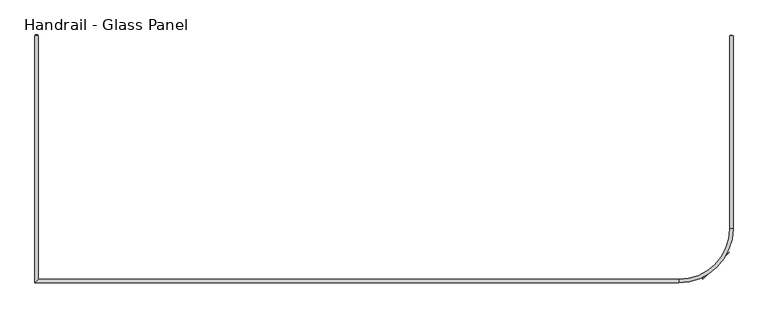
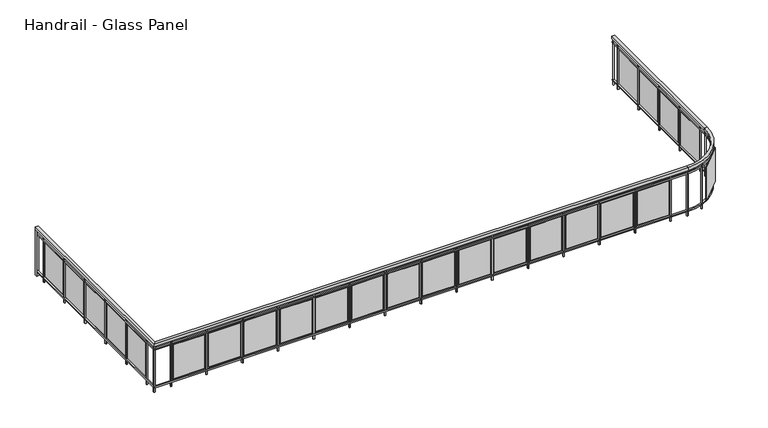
"""IFC4 building model written with IfcOpenShell, lengths in millimetres: railing geometry, Handrail - Glass Panel."""

from ifc_helpers import new_model, si_unit, point, frame, frame_2d, origin, place, context, project, spatial, polyline, circle_curve, trimmed, segment, composite_curve, outline, extrude, source, transform, mapped, element, save
from ifc_brep_helpers import plane_surface, cylinder_surface, revolved_surface, advanced_brep


def handrail_glass_panel_d91cfecd(model_context):
    return source(origin(), model_context, "Body", "SolidModel", [
        advanced_brep(
        [(19806.6134101, -11472.6148653, 9014.4), (19857.4134101, -11472.6148653, 9014.4), (19857.4134101, -11472.6148653, 8963.6), (19806.6134101, -11472.6148653, 8963.6), (19806.6134101, -15123.4148653, 9014.4), (19857.4134101, -15072.6148653, 9014.4), (19857.4134101, -15072.6148653, 8963.6), (19806.6134101, -15123.4148653, 8963.6), (29312.4134101, -15123.4148653, 9014.4), (29312.4134101, -15072.6148653, 9014.4), (29312.4134101, -15072.6148653, 8963.6), (29312.4134101, -15123.4148653, 8963.6), (30062.4134101, -14322.6148653, 9014.4), (30113.2134101, -14322.6148653, 9014.4), (30062.4134101, -14322.6148653, 8963.6), (30113.2134101, -14322.6148653, 8963.6), (30113.2134101, -11472.6148653, 9014.4), (30113.2134101, -11472.6148653, 8963.6), (30062.4134101, -11472.6148653, 8963.6), (30062.4134101, -11472.6148653, 9014.4)],
        [
            (0, 1),
            (1, 2),
            (2, 3),
            (3, 0),
            (0, 4),
            (4, 5),
            (5, 1),
            (5, 6),
            (6, 2),
            (6, 7),
            (7, 3),
            (7, 4),
            (4, 8),
            (8, 9),
            (9, 5),
            (9, 10),
            (10, 6),
            (10, 11),
            (11, 7),
            (11, 8),
            (12, 9, circle_curve(frame((29312.4134101, -14322.6148653, 9014.4), z_axis=(0.0, 0.0, -1.0), x_axis=(0.0, -1.0, 0.0)), 750.0)),
            (8, 13, circle_curve(frame((29312.4134101, -14322.6148653, 9014.4), z_axis=(0.0, 0.0, 1.0), x_axis=(0.0, -1.0, 0.0)), 800.8)),
            (13, 12),
            (14, 10, circle_curve(frame((29312.4134101, -14322.6148653, 8963.6), z_axis=(0.0, 0.0, -1.0), x_axis=(0.0, -1.0, 0.0)), 750.0)),
            (12, 14),
            (15, 11, circle_curve(frame((29312.4134101, -14322.6148653, 8963.6), z_axis=(0.0, 0.0, -1.0), x_axis=(0.0, -1.0, 0.0)), 800.8)),
            (14, 15),
            (15, 13),
            (16, 17),
            (17, 18),
            (18, 19),
            (19, 16),
            (13, 16),
            (19, 12),
            (18, 14),
            (17, 15),
        ],
        [
            plane_surface(frame((19832.0134101, -11472.6148653, 9014.4), z_axis=(0.0, 1.0, 0.0), x_axis=(0.0, 0.0, -1.0))),
            plane_surface(frame((19806.6134101, -11472.6148653, 9014.4), z_axis=(0.0, 0.0, 1.0), x_axis=(0.0, -1.0, 0.0))),
            plane_surface(frame((19857.4134101, -11472.6148653, 9014.4), z_axis=(1.0, 0.0, 0.0), x_axis=(0.0, -1.0, 0.0))),
            plane_surface(frame((19857.4134101, -11472.6148653, 8963.6), z_axis=(0.0, 0.0, -1.0), x_axis=(0.0, -1.0, 0.0))),
            plane_surface(frame((19806.6134101, -11472.6148653, 8963.6), z_axis=(-1.0, 0.0, 0.0), x_axis=(0.0, -1.0, 0.0))),
            plane_surface(frame((19806.6134101, -15123.4148653, 9014.4), z_axis=(0.0, 0.0, 1.0), x_axis=(1.0, 0.0, 0.0))),
            plane_surface(frame((19857.4134101, -15072.6148653, 9014.4), z_axis=(0.0, 1.0, 0.0), x_axis=(1.0, 0.0, 0.0))),
            plane_surface(frame((19857.4134101, -15072.6148653, 8963.6), z_axis=(0.0, 0.0, -1.0), x_axis=(1.0, 0.0, 0.0))),
            plane_surface(frame((19806.6134101, -15123.4148653, 8963.6), z_axis=(0.0, -1.0, 0.0), x_axis=(1.0, 0.0, 0.0))),
            plane_surface(frame((29312.4134101, -14322.6148653, 9014.4), z_axis=(0.0, 0.0, 1.0), x_axis=(0.0, -1.0, 0.0))),
            revolved_surface(polyline([(29312.4134101, -15072.6148653, 9014.4), (29312.4134101, -15072.6148653, 8963.6)]), (29312.4134101, -14322.6148653, 9014.4), (0.0, 0.0, 1.0)),
            plane_surface(frame((29312.4134101, -14322.6148653, 8963.6), z_axis=(0.0, 0.0, -1.0), x_axis=(0.0, -1.0, 0.0))),
            cylinder_surface(frame((29312.4134101, -14322.6148653, 9014.4), z_axis=(0.0, 0.0, 1.0), x_axis=(0.0, -1.0, 0.0)), 800.8),
            plane_surface(frame((30087.8134101, -11472.6148653, 9014.4), z_axis=(0.0, 1.0, 0.0), x_axis=(0.0, 0.0, 1.0))),
            plane_surface(frame((30113.2134101, -14322.6148653, 9014.4), z_axis=(0.0, 0.0, 1.0), x_axis=(0.0, 1.0, 0.0))),
            plane_surface(frame((30062.4134101, -14322.6148653, 9014.4), z_axis=(-1.0, 0.0, 0.0), x_axis=(0.0, 1.0, 0.0))),
            plane_surface(frame((30062.4134101, -14322.6148653, 8963.6), z_axis=(0.0, 0.0, -1.0), x_axis=(0.0, 1.0, 0.0))),
            plane_surface(frame((30113.2134101, -14322.6148653, 8963.6), z_axis=(1.0, 0.0, 0.0), x_axis=(0.0, 1.0, 0.0))),
        ],
        [
            (0, [[1, 2, 3, 4]]),
            (1, [[-1, 5, 6, 7]]),
            (2, [[-2, -7, 8, 9]]),
            (3, [[-3, -9, 10, 11]]),
            (4, [[-4, -11, 12, -5]]),
            (5, [[-6, 13, 14, 15]]),
            (6, [[-8, -15, 16, 17]]),
            (7, [[-10, -17, 18, 19]]),
            (8, [[-12, -19, 20, -13]]),
            (9, [[21, -14, 22, 23]]),
            (10, [[24, -16, -21, 25]]),
            (11, [[26, -18, -24, 27]]),
            (12, [[-22, -20, -26, 28]]),
            (13, [[29, 30, 31, 32]]),
            (14, [[-23, 33, -32, 34]]),
            (15, [[-25, -34, -31, 35]]),
            (16, [[-27, -35, -30, 36]]),
            (17, [[-28, -36, -29, -33]]),
        ],
    ),
        advanced_brep(
        [(19819.3134101, -11472.6148653, 8912.8), (19844.7134101, -11472.6148653, 8912.8), (19844.7134101, -11472.6148653, 8887.4), (19819.3134101, -11472.6148653, 8887.4), (19819.3134101, -15110.7148653, 8912.8), (19844.7134101, -15085.3148653, 8912.8), (19844.7134101, -15085.3148653, 8887.4), (19819.3134101, -15110.7148653, 8887.4), (29312.4134101, -15110.7148653, 8912.8), (29312.4134101, -15085.3148653, 8912.8), (29312.4134101, -15085.3148653, 8887.4), (29312.4134101, -15110.7148653, 8887.4), (30075.1134101, -14322.6148653, 8912.8), (30100.5134101, -14322.6148653, 8912.8), (30075.1134101, -14322.6148653, 8887.4), (30100.5134101, -14322.6148653, 8887.4), (30100.5134101, -11472.6148653, 8912.8), (30100.5134101, -11472.6148653, 8887.4), (30075.1134101, -11472.6148653, 8887.4), (30075.1134101, -11472.6148653, 8912.8)],
        [
            (0, 1),
            (1, 2),
            (2, 3),
            (3, 0),
            (0, 4),
            (4, 5),
            (5, 1),
            (5, 6),
            (6, 2),
            (6, 7),
            (7, 3),
            (7, 4),
            (4, 8),
            (8, 9),
            (9, 5),
            (9, 10),
            (10, 6),
            (10, 11),
            (11, 7),
            (11, 8),
            (12, 9, circle_curve(frame((29312.4134101, -14322.6148653, 8912.8), z_axis=(0.0, 0.0, -1.0), x_axis=(0.0, -1.0, 0.0)), 762.7)),
            (8, 13, circle_curve(frame((29312.4134101, -14322.6148653, 8912.8), z_axis=(0.0, 0.0, 1.0), x_axis=(0.0, -1.0, 0.0)), 788.1)),
            (13, 12),
            (14, 10, circle_curve(frame((29312.4134101, -14322.6148653, 8887.4), z_axis=(0.0, 0.0, -1.0), x_axis=(0.0, -1.0, 0.0)), 762.7)),
            (12, 14),
            (15, 11, circle_curve(frame((29312.4134101, -14322.6148653, 8887.4), z_axis=(0.0, 0.0, -1.0), x_axis=(0.0, -1.0, 0.0)), 788.1)),
            (14, 15),
            (15, 13),
            (16, 17),
            (17, 18),
            (18, 19),
            (19, 16),
            (13, 16),
            (19, 12),
            (18, 14),
            (17, 15),
        ],
        [
            plane_surface(frame((19832.0134101, -11472.6148653, 8912.8), z_axis=(0.0, 1.0, 0.0), x_axis=(0.0, 0.0, -1.0))),
            plane_surface(frame((19819.3134101, -11472.6148653, 8912.8), z_axis=(0.0, 0.0, 1.0), x_axis=(0.0, -1.0, 0.0))),
            plane_surface(frame((19844.7134101, -11472.6148653, 8912.8), z_axis=(1.0, 0.0, 0.0), x_axis=(0.0, -1.0, 0.0))),
            plane_surface(frame((19844.7134101, -11472.6148653, 8887.4), z_axis=(0.0, 0.0, -1.0), x_axis=(0.0, -1.0, 0.0))),
            plane_surface(frame((19819.3134101, -11472.6148653, 8887.4), z_axis=(-1.0, 0.0, 0.0), x_axis=(0.0, -1.0, 0.0))),
            plane_surface(frame((19819.3134101, -15110.7148653, 8912.8), z_axis=(0.0, 0.0, 1.0), x_axis=(1.0, 0.0, 0.0))),
            plane_surface(frame((19844.7134101, -15085.3148653, 8912.8), z_axis=(0.0, 1.0, 0.0), x_axis=(1.0, 0.0, 0.0))),
            plane_surface(frame((19844.7134101, -15085.3148653, 8887.4), z_axis=(0.0, 0.0, -1.0), x_axis=(1.0, 0.0, 0.0))),
            plane_surface(frame((19819.3134101, -15110.7148653, 8887.4), z_axis=(0.0, -1.0, 0.0), x_axis=(1.0, 0.0, 0.0))),
            plane_surface(frame((29312.4134101, -14322.6148653, 8912.8), z_axis=(0.0, 0.0, 1.0), x_axis=(0.0, -1.0, 0.0))),
            revolved_surface(polyline([(29312.4134101, -15085.3148653, 8912.8), (29312.4134101, -15085.3148653, 8887.4)]), (29312.4134101, -14322.6148653, 8912.8), (0.0, 0.0, 1.0)),
            plane_surface(frame((29312.4134101, -14322.6148653, 8887.4), z_axis=(0.0, 0.0, -1.0), x_axis=(0.0, -1.0, 0.0))),
            cylinder_surface(frame((29312.4134101, -14322.6148653, 8912.8), z_axis=(0.0, 0.0, 1.0), x_axis=(0.0, -1.0, 0.0)), 788.1),
            plane_surface(frame((30087.8134101, -11472.6148653, 8912.8), z_axis=(0.0, 1.0, 0.0), x_axis=(0.0, 0.0, 1.0))),
            plane_surface(frame((30100.5134101, -14322.6148653, 8912.8), z_axis=(0.0, 0.0, 1.0), x_axis=(0.0, 1.0, 0.0))),
            plane_surface(frame((30075.1134101, -14322.6148653, 8912.8), z_axis=(-1.0, 0.0, 0.0), x_axis=(0.0, 1.0, 0.0))),
            plane_surface(frame((30075.1134101, -14322.6148653, 8887.4), z_axis=(0.0, 0.0, -1.0), x_axis=(0.0, 1.0, 0.0))),
            plane_surface(frame((30100.5134101, -14322.6148653, 8887.4), z_axis=(1.0, 0.0, 0.0), x_axis=(0.0, 1.0, 0.0))),
        ],
        [
            (0, [[1, 2, 3, 4]]),
            (1, [[-1, 5, 6, 7]]),
            (2, [[-2, -7, 8, 9]]),
            (3, [[-3, -9, 10, 11]]),
            (4, [[-4, -11, 12, -5]]),
            (5, [[-6, 13, 14, 15]]),
            (6, [[-8, -15, 16, 17]]),
            (7, [[-10, -17, 18, 19]]),
            (8, [[-12, -19, 20, -13]]),
            (9, [[21, -14, 22, 23]]),
            (10, [[24, -16, -21, 25]]),
            (11, [[26, -18, -24, 27]]),
            (12, [[-22, -20, -26, 28]]),
            (13, [[29, 30, 31, 32]]),
            (14, [[-23, 33, -32, 34]]),
            (15, [[-25, -34, -31, 35]]),
            (16, [[-27, -35, -30, 36]]),
            (17, [[-28, -36, -29, -33]]),
        ],
    ),
        advanced_brep(
        [(19819.3134101, -11472.6148653, 8201.6), (19844.7134101, -11472.6148653, 8201.6), (19844.7134101, -11472.6148653, 8176.2), (19819.3134101, -11472.6148653, 8176.2), (19819.3134101, -15110.7148653, 8201.6), (19844.7134101, -15085.3148653, 8201.6), (19844.7134101, -15085.3148653, 8176.2), (19819.3134101, -15110.7148653, 8176.2), (29312.4134101, -15110.7148653, 8201.6), (29312.4134101, -15085.3148653, 8201.6), (29312.4134101, -15085.3148653, 8176.2), (29312.4134101, -15110.7148653, 8176.2), (30075.1134101, -14322.6148653, 8201.6), (30100.5134101, -14322.6148653, 8201.6), (30075.1134101, -14322.6148653, 8176.2), (30100.5134101, -14322.6148653, 8176.2), (30100.5134101, -11472.6148653, 8201.6), (30100.5134101, -11472.6148653, 8176.2), (30075.1134101, -11472.6148653, 8176.2), (30075.1134101, -11472.6148653, 8201.6)],
        [
            (0, 1),
            (1, 2),
            (2, 3),
            (3, 0),
            (0, 4),
            (4, 5),
            (5, 1),
            (5, 6),
            (6, 2),
            (6, 7),
            (7, 3),
            (7, 4),
            (4, 8),
            (8, 9),
            (9, 5),
            (9, 10),
            (10, 6),
            (10, 11),
            (11, 7),
            (11, 8),
            (12, 9, circle_curve(frame((29312.4134101, -14322.6148653, 8201.6), z_axis=(0.0, 0.0, -1.0), x_axis=(0.0, -1.0, 0.0)), 762.7)),
            (8, 13, circle_curve(frame((29312.4134101, -14322.6148653, 8201.6), z_axis=(0.0, 0.0, 1.0), x_axis=(0.0, -1.0, 0.0)), 788.1)),
            (13, 12),
            (14, 10, circle_curve(frame((29312.4134101, -14322.6148653, 8176.2), z_axis=(0.0, 0.0, -1.0), x_axis=(0.0, -1.0, 0.0)), 762.7)),
            (12, 14),
            (15, 11, circle_curve(frame((29312.4134101, -14322.6148653, 8176.2), z_axis=(0.0, 0.0, -1.0), x_axis=(0.0, -1.0, 0.0)), 788.1)),
            (14, 15),
            (15, 13),
            (16, 17),
            (17, 18),
            (18, 19),
            (19, 16),
            (13, 16),
            (19, 12),
            (18, 14),
            (17, 15),
        ],
        [
            plane_surface(frame((19832.0134101, -11472.6148653, 8201.6), z_axis=(0.0, 1.0, 0.0), x_axis=(0.0, 0.0, -1.0))),
            plane_surface(frame((19819.3134101, -11472.6148653, 8201.6), z_axis=(0.0, 0.0, 1.0), x_axis=(0.0, -1.0, 0.0))),
            plane_surface(frame((19844.7134101, -11472.6148653, 8201.6), z_axis=(1.0, 0.0, 0.0), x_axis=(0.0, -1.0, 0.0))),
            plane_surface(frame((19844.7134101, -11472.6148653, 8176.2), z_axis=(0.0, 0.0, -1.0), x_axis=(0.0, -1.0, 0.0))),
            plane_surface(frame((19819.3134101, -11472.6148653, 8176.2), z_axis=(-1.0, 0.0, 0.0), x_axis=(0.0, -1.0, 0.0))),
            plane_surface(frame((19819.3134101, -15110.7148653, 8201.6), z_axis=(0.0, 0.0, 1.0), x_axis=(1.0, 0.0, 0.0))),
            plane_surface(frame((19844.7134101, -15085.3148653, 8201.6), z_axis=(0.0, 1.0, 0.0), x_axis=(1.0, 0.0, 0.0))),
            plane_surface(frame((19844.7134101, -15085.3148653, 8176.2), z_axis=(0.0, 0.0, -1.0), x_axis=(1.0, 0.0, 0.0))),
            plane_surface(frame((19819.3134101, -15110.7148653, 8176.2), z_axis=(0.0, -1.0, 0.0), x_axis=(1.0, 0.0, 0.0))),
            plane_surface(frame((29312.4134101, -14322.6148653, 8201.6), z_axis=(0.0, 0.0, 1.0), x_axis=(0.0, -1.0, 0.0))),
            revolved_surface(polyline([(29312.4134101, -15085.3148653, 8201.6), (29312.4134101, -15085.3148653, 8176.2)]), (29312.4134101, -14322.6148653, 8201.6), (0.0, 0.0, 1.0)),
            plane_surface(frame((29312.4134101, -14322.6148653, 8176.2), z_axis=(0.0, 0.0, -1.0), x_axis=(0.0, -1.0, 0.0))),
            cylinder_surface(frame((29312.4134101, -14322.6148653, 8201.6), z_axis=(0.0, 0.0, 1.0), x_axis=(0.0, -1.0, 0.0)), 788.1),
            plane_surface(frame((30087.8134101, -11472.6148653, 8201.6), z_axis=(0.0, 1.0, 0.0), x_axis=(0.0, 0.0, 1.0))),
            plane_surface(frame((30100.5134101, -14322.6148653, 8201.6), z_axis=(0.0, 0.0, 1.0), x_axis=(0.0, 1.0, 0.0))),
            plane_surface(frame((30075.1134101, -14322.6148653, 8201.6), z_axis=(-1.0, 0.0, 0.0), x_axis=(0.0, 1.0, 0.0))),
            plane_surface(frame((30075.1134101, -14322.6148653, 8176.2), z_axis=(0.0, 0.0, -1.0), x_axis=(0.0, 1.0, 0.0))),
            plane_surface(frame((30100.5134101, -14322.6148653, 8176.2), z_axis=(1.0, 0.0, 0.0), x_axis=(0.0, 1.0, 0.0))),
        ],
        [
            (0, [[1, 2, 3, 4]]),
            (1, [[-1, 5, 6, 7]]),
            (2, [[-2, -7, 8, 9]]),
            (3, [[-3, -9, 10, 11]]),
            (4, [[-4, -11, 12, -5]]),
            (5, [[-6, 13, 14, 15]]),
            (6, [[-8, -15, 16, 17]]),
            (7, [[-10, -17, 18, 19]]),
            (8, [[-12, -19, 20, -13]]),
            (9, [[21, -14, 22, 23]]),
            (10, [[24, -16, -21, 25]]),
            (11, [[26, -18, -24, 27]]),
            (12, [[-22, -20, -26, 28]]),
            (13, [[29, 30, 31, 32]]),
            (14, [[-23, 33, -32, 34]]),
            (15, [[-25, -34, -31, 35]]),
            (16, [[-27, -35, -30, 36]]),
            (17, [[-28, -36, -29, -33]]),
        ],
    ),
        extrude(outline(polyline([(30097.3384101, -11637.1398653), (30078.2884101, -11637.1398653), (30078.2884101, -11618.0898653), (30097.3384101, -11618.0898653), (30097.3384101, -11637.1398653)])), frame((0.0, 0.0, 8100.0), z_axis=(0.0, 0.0, 1.0), x_axis=(1.0, 0.0, 0.0)), (0.0, 0.0, 1.0), 863.6),
        extrude(outline(polyline([(30081.4634101, -12224.5148653), (30081.4634101, -11665.7148653), (30087.8134101, -11665.7148653), (30087.8134101, -12224.5148653), (30081.4634101, -12224.5148653)])), frame((0.0, 0.0, 8227.0), z_axis=(0.0, 0.0, 1.0), x_axis=(1.0, 0.0, 0.0)), (0.0, 0.0, 1.0), 635.0),
        extrude(outline(polyline([(30097.3384101, -12272.1398653), (30078.2884101, -12272.1398653), (30078.2884101, -12253.0898653), (30097.3384101, -12253.0898653), (30097.3384101, -12272.1398653)])), frame((0.0, 0.0, 8100.0), z_axis=(0.0, 0.0, 1.0), x_axis=(1.0, 0.0, 0.0)), (0.0, 0.0, 1.0), 863.6),
        extrude(outline(polyline([(30081.4634101, -12859.5148653), (30081.4634101, -12300.7148653), (30087.8134101, -12300.7148653), (30087.8134101, -12859.5148653), (30081.4634101, -12859.5148653)])), frame((0.0, 0.0, 8227.0), z_axis=(0.0, 0.0, 1.0), x_axis=(1.0, 0.0, 0.0)), (0.0, 0.0, 1.0), 635.0),
        extrude(outline(polyline([(30097.3384101, -12907.1398653), (30078.2884101, -12907.1398653), (30078.2884101, -12888.0898653), (30097.3384101, -12888.0898653), (30097.3384101, -12907.1398653)])), frame((0.0, 0.0, 8100.0), z_axis=(0.0, 0.0, 1.0), x_axis=(1.0, 0.0, 0.0)), (0.0, 0.0, 1.0), 863.6),
        extrude(outline(polyline([(30081.4634101, -13494.5148653), (30081.4634101, -12935.7148653), (30087.8134101, -12935.7148653), (30087.8134101, -13494.5148653), (30081.4634101, -13494.5148653)])), frame((0.0, 0.0, 8227.0), z_axis=(0.0, 0.0, 1.0), x_axis=(1.0, 0.0, 0.0)), (0.0, 0.0, 1.0), 635.0),
        extrude(outline(polyline([(30097.3384101, -13542.1398653), (30078.2884101, -13542.1398653), (30078.2884101, -13523.0898653), (30097.3384101, -13523.0898653), (30097.3384101, -13542.1398653)])), frame((0.0, 0.0, 8100.0), z_axis=(0.0, 0.0, 1.0), x_axis=(1.0, 0.0, 0.0)), (0.0, 0.0, 1.0), 863.6),
        extrude(outline(polyline([(30081.4634101, -14129.5148653), (30081.4634101, -13570.7148653), (30087.8134101, -13570.7148653), (30087.8134101, -14129.5148653), (30081.4634101, -14129.5148653)])), frame((0.0, 0.0, 8227.0), z_axis=(0.0, 0.0, 1.0), x_axis=(1.0, 0.0, 0.0)), (0.0, 0.0, 1.0), 635.0),
        extrude(outline(polyline([(30097.3384101, -14177.1398653), (30078.2884101, -14177.1398653), (30078.2884101, -14158.0898653), (30097.3384101, -14158.0898653), (30097.3384101, -14177.1398653)])), frame((0.0, 0.0, 8100.0), z_axis=(0.0, 0.0, 1.0), x_axis=(1.0, 0.0, 0.0)), (0.0, 0.0, 1.0), 863.6),
        extrude(outline(polyline([(30039.0268125, -14619.651807), (30021.3071536, -14612.6577961), (30028.3011644, -14594.9381372), (30046.0208234, -14601.9321481), (30039.0268125, -14619.651807)])), frame((0.0, 0.0, 8100.0), z_axis=(0.0, 0.0, 1.0), x_axis=(1.0, 0.0, 0.0)), (0.0, 0.0, 1.0), 863.6),
        extrude(outline(polyline([(29658.6482455, -15063.98097), (30053.7795148, -14668.8497007), (30058.2696429, -14673.3398287), (29663.1383736, -15068.4710981), (29658.6482455, -15063.98097)])), frame((0.0, 0.0, 8227.0), z_axis=(0.0, 0.0, 1.0), x_axis=(1.0, 0.0, 0.0)), (0.0, 0.0, 1.0), 635.0),
        extrude(outline(polyline([(29591.7306929, -15056.2222785), (29584.7366821, -15038.5026196), (29602.456341, -15031.5086087), (29609.4503519, -15049.2282676), (29591.7306929, -15056.2222785)])), frame((0.0, 0.0, 8100.0), z_axis=(0.0, 0.0, 1.0), x_axis=(1.0, 0.0, 0.0)), (0.0, 0.0, 1.0), 863.6),
        extrude(outline(polyline([(29007.6884101, -15107.5398653), (29007.6884101, -15088.4898653), (29026.7384101, -15088.4898653), (29026.7384101, -15107.5398653), (29007.6884101, -15107.5398653)])), frame((0.0, 0.0, 8100.0), z_axis=(0.0, 0.0, 1.0), x_axis=(1.0, 0.0, 0.0)), (0.0, 0.0, 1.0), 863.6),
        extrude(outline(polyline([(28420.3134101, -15091.6648653), (28979.1134101, -15091.6648653), (28979.1134101, -15098.0148653), (28420.3134101, -15098.0148653), (28420.3134101, -15091.6648653)])), frame((0.0, 0.0, 8227.0), z_axis=(0.0, 0.0, 1.0), x_axis=(1.0, 0.0, 0.0)), (0.0, 0.0, 1.0), 635.0),
        extrude(outline(polyline([(28372.6884101, -15107.5398653), (28372.6884101, -15088.4898653), (28391.7384101, -15088.4898653), (28391.7384101, -15107.5398653), (28372.6884101, -15107.5398653)])), frame((0.0, 0.0, 8100.0), z_axis=(0.0, 0.0, 1.0), x_axis=(1.0, 0.0, 0.0)), (0.0, 0.0, 1.0), 863.6),
        extrude(outline(polyline([(27785.3134101, -15091.6648653), (28344.1134101, -15091.6648653), (28344.1134101, -15098.0148653), (27785.3134101, -15098.0148653), (27785.3134101, -15091.6648653)])), frame((0.0, 0.0, 8227.0), z_axis=(0.0, 0.0, 1.0), x_axis=(1.0, 0.0, 0.0)), (0.0, 0.0, 1.0), 635.0),
        extrude(outline(polyline([(27737.6884101, -15107.5398653), (27737.6884101, -15088.4898653), (27756.7384101, -15088.4898653), (27756.7384101, -15107.5398653), (27737.6884101, -15107.5398653)])), frame((0.0, 0.0, 8100.0), z_axis=(0.0, 0.0, 1.0), x_axis=(1.0, 0.0, 0.0)), (0.0, 0.0, 1.0), 863.6),
        extrude(outline(polyline([(27150.3134101, -15091.6648653), (27709.1134101, -15091.6648653), (27709.1134101, -15098.0148653), (27150.3134101, -15098.0148653), (27150.3134101, -15091.6648653)])), frame((0.0, 0.0, 8227.0), z_axis=(0.0, 0.0, 1.0), x_axis=(1.0, 0.0, 0.0)), (0.0, 0.0, 1.0), 635.0),
        extrude(outline(polyline([(27102.6884101, -15107.5398653), (27102.6884101, -15088.4898653), (27121.7384101, -15088.4898653), (27121.7384101, -15107.5398653), (27102.6884101, -15107.5398653)])), frame((0.0, 0.0, 8100.0), z_axis=(0.0, 0.0, 1.0), x_axis=(1.0, 0.0, 0.0)), (0.0, 0.0, 1.0), 863.6),
        extrude(outline(polyline([(26515.3134101, -15091.6648653), (27074.1134101, -15091.6648653), (27074.1134101, -15098.0148653), (26515.3134101, -15098.0148653), (26515.3134101, -15091.6648653)])), frame((0.0, 0.0, 8227.0), z_axis=(0.0, 0.0, 1.0), x_axis=(1.0, 0.0, 0.0)), (0.0, 0.0, 1.0), 635.0),
        extrude(outline(polyline([(26467.6884101, -15107.5398653), (26467.6884101, -15088.4898653), (26486.7384101, -15088.4898653), (26486.7384101, -15107.5398653), (26467.6884101, -15107.5398653)])), frame((0.0, 0.0, 8100.0), z_axis=(0.0, 0.0, 1.0), x_axis=(1.0, 0.0, 0.0)), (0.0, 0.0, 1.0), 863.6),
        extrude(outline(polyline([(25880.3134101, -15091.6648653), (26439.1134101, -15091.6648653), (26439.1134101, -15098.0148653), (25880.3134101, -15098.0148653), (25880.3134101, -15091.6648653)])), frame((0.0, 0.0, 8227.0), z_axis=(0.0, 0.0, 1.0), x_axis=(1.0, 0.0, 0.0)), (0.0, 0.0, 1.0), 635.0),
        extrude(outline(polyline([(25832.6884101, -15107.5398653), (25832.6884101, -15088.4898653), (25851.7384101, -15088.4898653), (25851.7384101, -15107.5398653), (25832.6884101, -15107.5398653)])), frame((0.0, 0.0, 8100.0), z_axis=(0.0, 0.0, 1.0), x_axis=(1.0, 0.0, 0.0)), (0.0, 0.0, 1.0), 863.6),
        extrude(outline(polyline([(25245.3134101, -15091.6648653), (25804.1134101, -15091.6648653), (25804.1134101, -15098.0148653), (25245.3134101, -15098.0148653), (25245.3134101, -15091.6648653)])), frame((0.0, 0.0, 8227.0), z_axis=(0.0, 0.0, 1.0), x_axis=(1.0, 0.0, 0.0)), (0.0, 0.0, 1.0), 635.0),
        extrude(outline(polyline([(25197.6884101, -15107.5398653), (25197.6884101, -15088.4898653), (25216.7384101, -15088.4898653), (25216.7384101, -15107.5398653), (25197.6884101, -15107.5398653)])), frame((0.0, 0.0, 8100.0), z_axis=(0.0, 0.0, 1.0), x_axis=(1.0, 0.0, 0.0)), (0.0, 0.0, 1.0), 863.6),
        extrude(outline(polyline([(24610.3134101, -15091.6648653), (25169.1134101, -15091.6648653), (25169.1134101, -15098.0148653), (24610.3134101, -15098.0148653), (24610.3134101, -15091.6648653)])), frame((0.0, 0.0, 8227.0), z_axis=(0.0, 0.0, 1.0), x_axis=(1.0, 0.0, 0.0)), (0.0, 0.0, 1.0), 635.0),
        extrude(outline(polyline([(24562.6884101, -15107.5398653), (24562.6884101, -15088.4898653), (24581.7384101, -15088.4898653), (24581.7384101, -15107.5398653), (24562.6884101, -15107.5398653)])), frame((0.0, 0.0, 8100.0), z_axis=(0.0, 0.0, 1.0), x_axis=(1.0, 0.0, 0.0)), (0.0, 0.0, 1.0), 863.6),
        extrude(outline(polyline([(23975.3134101, -15091.6648653), (24534.1134101, -15091.6648653), (24534.1134101, -15098.0148653), (23975.3134101, -15098.0148653), (23975.3134101, -15091.6648653)])), frame((0.0, 0.0, 8227.0), z_axis=(0.0, 0.0, 1.0), x_axis=(1.0, 0.0, 0.0)), (0.0, 0.0, 1.0), 635.0),
        extrude(outline(polyline([(23927.6884101, -15107.5398653), (23927.6884101, -15088.4898653), (23946.7384101, -15088.4898653), (23946.7384101, -15107.5398653), (23927.6884101, -15107.5398653)])), frame((0.0, 0.0, 8100.0), z_axis=(0.0, 0.0, 1.0), x_axis=(1.0, 0.0, 0.0)), (0.0, 0.0, 1.0), 863.6),
        extrude(outline(polyline([(23340.3134101, -15091.6648653), (23899.1134101, -15091.6648653), (23899.1134101, -15098.0148653), (23340.3134101, -15098.0148653), (23340.3134101, -15091.6648653)])), frame((0.0, 0.0, 8227.0), z_axis=(0.0, 0.0, 1.0), x_axis=(1.0, 0.0, 0.0)), (0.0, 0.0, 1.0), 635.0),
        extrude(outline(polyline([(23292.6884101, -15107.5398653), (23292.6884101, -15088.4898653), (23311.7384101, -15088.4898653), (23311.7384101, -15107.5398653), (23292.6884101, -15107.5398653)])), frame((0.0, 0.0, 8100.0), z_axis=(0.0, 0.0, 1.0), x_axis=(1.0, 0.0, 0.0)), (0.0, 0.0, 1.0), 863.6),
        extrude(outline(polyline([(22705.3134101, -15091.6648653), (23264.1134101, -15091.6648653), (23264.1134101, -15098.0148653), (22705.3134101, -15098.0148653), (22705.3134101, -15091.6648653)])), frame((0.0, 0.0, 8227.0), z_axis=(0.0, 0.0, 1.0), x_axis=(1.0, 0.0, 0.0)), (0.0, 0.0, 1.0), 635.0),
        extrude(outline(polyline([(22657.6884101, -15107.5398653), (22657.6884101, -15088.4898653), (22676.7384101, -15088.4898653), (22676.7384101, -15107.5398653), (22657.6884101, -15107.5398653)])), frame((0.0, 0.0, 8100.0), z_axis=(0.0, 0.0, 1.0), x_axis=(1.0, 0.0, 0.0)), (0.0, 0.0, 1.0), 863.6),
        extrude(outline(polyline([(22070.3134101, -15091.6648653), (22629.1134101, -15091.6648653), (22629.1134101, -15098.0148653), (22070.3134101, -15098.0148653), (22070.3134101, -15091.6648653)])), frame((0.0, 0.0, 8227.0), z_axis=(0.0, 0.0, 1.0), x_axis=(1.0, 0.0, 0.0)), (0.0, 0.0, 1.0), 635.0),
        extrude(outline(polyline([(22022.6884101, -15107.5398653), (22022.6884101, -15088.4898653), (22041.7384101, -15088.4898653), (22041.7384101, -15107.5398653), (22022.6884101, -15107.5398653)])), frame((0.0, 0.0, 8100.0), z_axis=(0.0, 0.0, 1.0), x_axis=(1.0, 0.0, 0.0)), (0.0, 0.0, 1.0), 863.6),
        extrude(outline(polyline([(21435.3134101, -15091.6648653), (21994.1134101, -15091.6648653), (21994.1134101, -15098.0148653), (21435.3134101, -15098.0148653), (21435.3134101, -15091.6648653)])), frame((0.0, 0.0, 8227.0), z_axis=(0.0, 0.0, 1.0), x_axis=(1.0, 0.0, 0.0)), (0.0, 0.0, 1.0), 635.0),
        extrude(outline(polyline([(21387.6884101, -15107.5398653), (21387.6884101, -15088.4898653), (21406.7384101, -15088.4898653), (21406.7384101, -15107.5398653), (21387.6884101, -15107.5398653)])), frame((0.0, 0.0, 8100.0), z_axis=(0.0, 0.0, 1.0), x_axis=(1.0, 0.0, 0.0)), (0.0, 0.0, 1.0), 863.6),
        extrude(outline(polyline([(20800.3134101, -15091.6648653), (21359.1134101, -15091.6648653), (21359.1134101, -15098.0148653), (20800.3134101, -15098.0148653), (20800.3134101, -15091.6648653)])), frame((0.0, 0.0, 8227.0), z_axis=(0.0, 0.0, 1.0), x_axis=(1.0, 0.0, 0.0)), (0.0, 0.0, 1.0), 635.0),
        extrude(outline(polyline([(20752.6884101, -15107.5398653), (20752.6884101, -15088.4898653), (20771.7384101, -15088.4898653), (20771.7384101, -15107.5398653), (20752.6884101, -15107.5398653)])), frame((0.0, 0.0, 8100.0), z_axis=(0.0, 0.0, 1.0), x_axis=(1.0, 0.0, 0.0)), (0.0, 0.0, 1.0), 863.6),
        extrude(outline(polyline([(20165.3134101, -15091.6648653), (20724.1134101, -15091.6648653), (20724.1134101, -15098.0148653), (20165.3134101, -15098.0148653), (20165.3134101, -15091.6648653)])), frame((0.0, 0.0, 8227.0), z_axis=(0.0, 0.0, 1.0), x_axis=(1.0, 0.0, 0.0)), (0.0, 0.0, 1.0), 635.0),
        extrude(outline(polyline([(20117.6884101, -15107.5398653), (20117.6884101, -15088.4898653), (20136.7384101, -15088.4898653), (20136.7384101, -15107.5398653), (20117.6884101, -15107.5398653)])), frame((0.0, 0.0, 8100.0), z_axis=(0.0, 0.0, 1.0), x_axis=(1.0, 0.0, 0.0)), (0.0, 0.0, 1.0), 863.6),
        extrude(outline(polyline([(19822.4884101, -14863.2898653), (19841.5384101, -14863.2898653), (19841.5384101, -14882.3398653), (19822.4884101, -14882.3398653), (19822.4884101, -14863.2898653)])), frame((0.0, 0.0, 8100.0), z_axis=(0.0, 0.0, 1.0), x_axis=(1.0, 0.0, 0.0)), (0.0, 0.0, 1.0), 863.6),
        extrude(outline(polyline([(19838.3634101, -14275.9148653), (19838.3634101, -14834.7148653), (19832.0134101, -14834.7148653), (19832.0134101, -14275.9148653), (19838.3634101, -14275.9148653)])), frame((0.0, 0.0, 8227.0), z_axis=(0.0, 0.0, 1.0), x_axis=(1.0, 0.0, 0.0)), (0.0, 0.0, 1.0), 635.0),
        extrude(outline(polyline([(19822.4884101, -14228.2898653), (19841.5384101, -14228.2898653), (19841.5384101, -14247.3398653), (19822.4884101, -14247.3398653), (19822.4884101, -14228.2898653)])), frame((0.0, 0.0, 8100.0), z_axis=(0.0, 0.0, 1.0), x_axis=(1.0, 0.0, 0.0)), (0.0, 0.0, 1.0), 863.6),
        extrude(outline(polyline([(19838.3634101, -13640.9148653), (19838.3634101, -14199.7148653), (19832.0134101, -14199.7148653), (19832.0134101, -13640.9148653), (19838.3634101, -13640.9148653)])), frame((0.0, 0.0, 8227.0), z_axis=(0.0, 0.0, 1.0), x_axis=(1.0, 0.0, 0.0)), (0.0, 0.0, 1.0), 635.0),
        extrude(outline(polyline([(19822.4884101, -13593.2898653), (19841.5384101, -13593.2898653), (19841.5384101, -13612.3398653), (19822.4884101, -13612.3398653), (19822.4884101, -13593.2898653)])), frame((0.0, 0.0, 8100.0), z_axis=(0.0, 0.0, 1.0), x_axis=(1.0, 0.0, 0.0)), (0.0, 0.0, 1.0), 863.6),
        extrude(outline(polyline([(19838.3634101, -13005.9148653), (19838.3634101, -13564.7148653), (19832.0134101, -13564.7148653), (19832.0134101, -13005.9148653), (19838.3634101, -13005.9148653)])), frame((0.0, 0.0, 8227.0), z_axis=(0.0, 0.0, 1.0), x_axis=(1.0, 0.0, 0.0)), (0.0, 0.0, 1.0), 635.0),
        extrude(outline(polyline([(19822.4884101, -12958.2898653), (19841.5384101, -12958.2898653), (19841.5384101, -12977.3398653), (19822.4884101, -12977.3398653), (19822.4884101, -12958.2898653)])), frame((0.0, 0.0, 8100.0), z_axis=(0.0, 0.0, 1.0), x_axis=(1.0, 0.0, 0.0)), (0.0, 0.0, 1.0), 863.6),
        extrude(outline(polyline([(19838.3634101, -12370.9148653), (19838.3634101, -12929.7148653), (19832.0134101, -12929.7148653), (19832.0134101, -12370.9148653), (19838.3634101, -12370.9148653)])), frame((0.0, 0.0, 8227.0), z_axis=(0.0, 0.0, 1.0), x_axis=(1.0, 0.0, 0.0)), (0.0, 0.0, 1.0), 635.0),
        extrude(outline(polyline([(19822.4884101, -12323.2898653), (19841.5384101, -12323.2898653), (19841.5384101, -12342.3398653), (19822.4884101, -12342.3398653), (19822.4884101, -12323.2898653)])), frame((0.0, 0.0, 8100.0), z_axis=(0.0, 0.0, 1.0), x_axis=(1.0, 0.0, 0.0)), (0.0, 0.0, 1.0), 863.6),
        extrude(outline(polyline([(19838.3634101, -11735.9148653), (19838.3634101, -12294.7148653), (19832.0134101, -12294.7148653), (19832.0134101, -11735.9148653), (19838.3634101, -11735.9148653)])), frame((0.0, 0.0, 8227.0), z_axis=(0.0, 0.0, 1.0), x_axis=(1.0, 0.0, 0.0)), (0.0, 0.0, 1.0), 635.0),
        extrude(outline(polyline([(19822.4884101, -11688.2898653), (19841.5384101, -11688.2898653), (19841.5384101, -11707.3398653), (19822.4884101, -11707.3398653), (19822.4884101, -11688.2898653)])), frame((0.0, 0.0, 8100.0), z_axis=(0.0, 0.0, 1.0), x_axis=(1.0, 0.0, 0.0)), (0.0, 0.0, 1.0), 863.6),
        extrude(outline(composite_curve([segment(trimmed(circle_curve(frame_2d((30087.8134101, -14322.6148653)), 12.7), [point((30075.1134101, -14322.6148653))], [point((30100.5134101, -14322.6148653))], False, "CARTESIAN"), True, "CONTINUOUS"), segment(trimmed(circle_curve(frame_2d((30087.8134101, -14322.6148653)), 12.7), [point((30100.5134101, -14322.6148653))], [point((30075.1134101, -14322.6148653))], False, "CARTESIAN"), True, "CONTINUOUS")], self_intersect=False)), frame((0.0, 0.0, 8100.0), z_axis=(0.0, 0.0, 1.0), x_axis=(1.0, 0.0, 0.0)), (0.0, 0.0, 1.0), 863.6),
        extrude(outline(composite_curve([segment(trimmed(circle_curve(frame_2d((29312.4134101, -15098.0148653)), 12.7), [point((29312.4134101, -15085.3148653))], [point((29312.4134101, -15110.7148653))], False, "CARTESIAN"), True, "CONTINUOUS"), segment(trimmed(circle_curve(frame_2d((29312.4134101, -15098.0148653)), 12.7), [point((29312.4134101, -15110.7148653))], [point((29312.4134101, -15085.3148653))], False, "CARTESIAN"), True, "CONTINUOUS")], self_intersect=False)), frame((0.0, 0.0, 8100.0), z_axis=(0.0, 0.0, 1.0), x_axis=(1.0, 0.0, 0.0)), (0.0, 0.0, 1.0), 863.6),
        extrude(outline(composite_curve([segment(trimmed(circle_curve(frame_2d((19832.0134101, -15098.0148653)), 12.7), [point((19844.7134101, -15098.0148653))], [point((19819.3134101, -15098.0148653))], False, "CARTESIAN"), True, "CONTINUOUS"), segment(trimmed(circle_curve(frame_2d((19832.0134101, -15098.0148653)), 12.7), [point((19819.3134101, -15098.0148653))], [point((19844.7134101, -15098.0148653))], False, "CARTESIAN"), True, "CONTINUOUS")], self_intersect=False)), frame((0.0, 0.0, 8100.0), z_axis=(0.0, 0.0, 1.0), x_axis=(1.0, 0.0, 0.0)), (0.0, 0.0, 1.0), 863.6),
        extrude(outline(composite_curve([segment(trimmed(circle_curve(frame_2d((30087.8134101, -11482.1398653)), 12.7), [point((30075.1134101, -11482.1398653))], [point((30100.5134101, -11482.1398653))], False, "CARTESIAN"), True, "CONTINUOUS"), segment(trimmed(circle_curve(frame_2d((30087.8134101, -11482.1398653)), 12.7), [point((30100.5134101, -11482.1398653))], [point((30075.1134101, -11482.1398653))], False, "CARTESIAN"), True, "CONTINUOUS")], self_intersect=False)), frame((0.0, 0.0, 8100.0), z_axis=(0.0, 0.0, 1.0), x_axis=(1.0, 0.0, 0.0)), (0.0, 0.0, 1.0), 863.6),
        extrude(outline(polyline([(19812.9634101, -11463.0898653), (19851.0634101, -11463.0898653), (19851.0634101, -11501.1898653), (19812.9634101, -11501.1898653), (19812.9634101, -11463.0898653)])), frame((0.0, 0.0, 8100.0), z_axis=(0.0, 0.0, 1.0), x_axis=(1.0, 0.0, 0.0)), (0.0, 0.0, 1.0), 863.6),
    ])


if __name__ == "__main__":
    model = new_model("IFC4")
    model_context = context("Model", 3, world=origin())
    ifc_project = project(units=[si_unit("LENGTHUNIT", "METRE", prefix="MILLI")], contexts=[model_context])
    site = spatial("IfcSite", under=ifc_project)
    building = spatial("IfcBuilding", under=site)
    placement = place(None, origin())
    handrail_glass_panel_shape = handrail_glass_panel_d91cfecd(model_context)
    element("IfcRailing", 1, ObjectType="Handrail - Glass Panel", at=placement, inside=building, context=model_context, shape_type="MappedRepresentation", body=[
        mapped(handrail_glass_panel_shape, transform((0.0, 0.0, 0.0), x_axis=(1.0, 0.0, 0.0), y_axis=(0.0, 1.0, 0.0), z_axis=(0.0, 0.0, 1.0))),
    ])
    save(model, "model.ifc")
